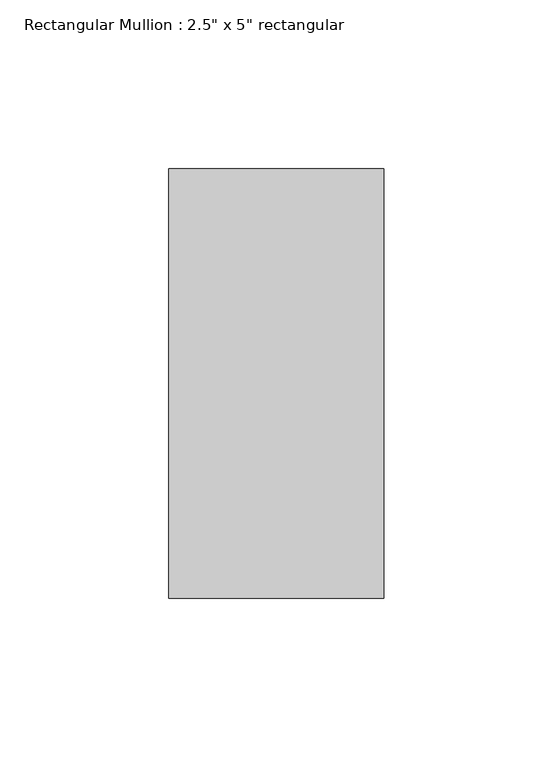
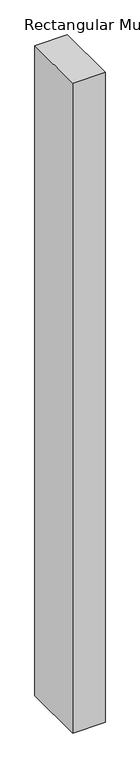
"""IFC4 building model written with IfcOpenShell, lengths in millimetres: member geometry."""

from ifc_helpers import new_model, si_unit, frame, origin, place, context, project, spatial, polyline, outline, extrude, source, transform, mapped, element, save


def member_64ac20db(model_context):
    return source(origin(), model_context, "Body", "SweptSolid", [
        extrude(outline(polyline([(31.75, 63.5), (31.75, -63.5), (-31.75, -63.5), (-31.75, 63.5), (31.75, 63.5)])), frame((0.0, 0.0, -1339.8500001), z_axis=(0.0, 0.0, 1.0), x_axis=(1.0, 0.0, 0.0)), (0.0, 0.0, 1.0), 1339.8500001),
    ])


if __name__ == "__main__":
    model = new_model("IFC4")
    model_context = context("Model", 3, world=origin())
    ifc_project = project(units=[si_unit("LENGTHUNIT", "METRE", prefix="MILLI")], contexts=[model_context])
    site = spatial("IfcSite", under=ifc_project)
    building = spatial("IfcBuilding", under=site)
    placement = place(None, origin())
    member_shape = member_64ac20db(model_context)
    element("IfcMember", 1, ObjectType="Rectangular Mullion : 2.5\" x 5\" rectangular", at=placement, inside=building, context=model_context, shape_type="MappedRepresentation", body=[
        mapped(member_shape, transform((0.0, 0.0, 0.0), x_axis=(1.0, 0.0, 0.0), y_axis=(0.0, 1.0, 0.0), z_axis=(0.0, 0.0, 1.0))),
    ])
    save(model, "model.ifc")
